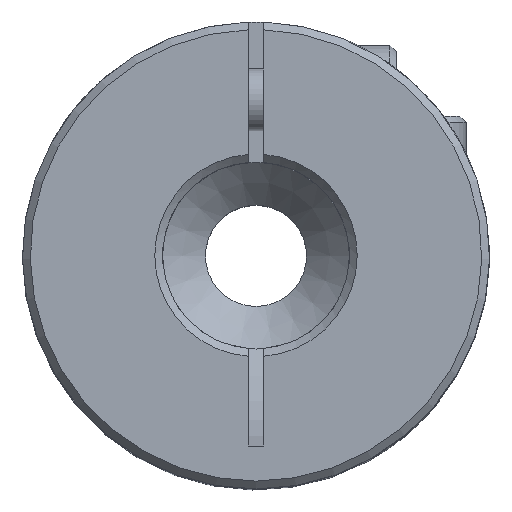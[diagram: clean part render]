
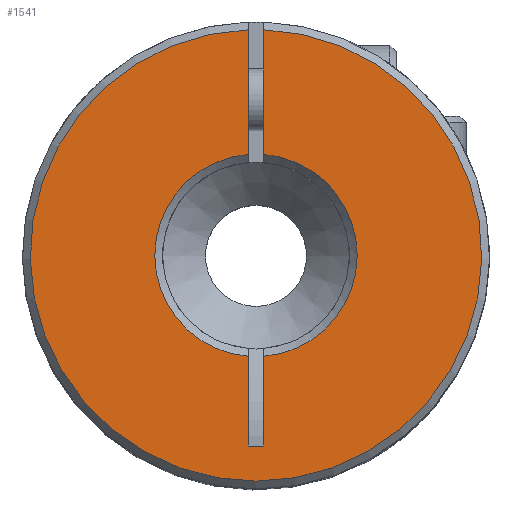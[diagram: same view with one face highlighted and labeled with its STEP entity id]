
A CAD part, top view. The second image highlights one B-rep face of the part: STEP entity #1541.
In plain terms, the highlighted planar face has unit normal (0, 0, 1) as drawn and (0, 0, -1) by its records, which use the part's own axes.
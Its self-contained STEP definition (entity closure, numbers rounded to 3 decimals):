
#1541=ADVANCED_FACE('',(#3098),#3100,.F.);
#3098=FACE_BOUND('',#3099,.T.);
#3099=EDGE_LOOP('',(#4160,#4161,#4162,#4163,#4164,#4165,#4166,#4167));
#3100=PLANE('',#3101);
#3101=AXIS2_PLACEMENT_3D('',#3102,#3103,#3104);
#3102=CARTESIAN_POINT('',(0.,0.,0.));
#3103=DIRECTION('',(0.,0.,1.));
#3104=DIRECTION('',(1.,0.,0.));
#4160=ORIENTED_EDGE('',*,*,#4709,.F.);
#4161=ORIENTED_EDGE('',*,*,#4705,.T.);
#4162=ORIENTED_EDGE('',*,*,#4710,.T.);
#4163=ORIENTED_EDGE('',*,*,#4711,.T.);
#4164=ORIENTED_EDGE('',*,*,#4712,.T.);
#4165=ORIENTED_EDGE('',*,*,#4713,.T.);
#4166=ORIENTED_EDGE('',*,*,#4714,.T.);
#4167=ORIENTED_EDGE('',*,*,#4715,.T.);
#4705=EDGE_CURVE('',#5303,#5309,#5311,.T.);
#4709=EDGE_CURVE('',#5303,#5317,#5318,.T.);
#4710=EDGE_CURVE('',#5309,#5319,#5320,.T.);
#4711=EDGE_CURVE('',#5319,#5321,#5322,.T.);
#4712=EDGE_CURVE('',#5321,#5323,#5324,.F.);
#4713=EDGE_CURVE('',#5323,#5325,#5326,.F.);
#4714=EDGE_CURVE('',#5325,#5327,#5328,.T.);
#4715=EDGE_CURVE('',#5327,#5317,#5329,.F.);
#5303=VERTEX_POINT('',#7527);
#5309=VERTEX_POINT('',#7541);
#5311=LINE('',#7547,#7548);
#5317=VERTEX_POINT('',#7563);
#5318=CIRCLE('',#7564,14.5);
#5319=VERTEX_POINT('',#7568);
#5320=CIRCLE('',#7569,6.5);
#5321=VERTEX_POINT('',#7573);
#5322=LINE('',#7574,#7575);
#5323=VERTEX_POINT('',#7577);
#5324=LINE('',#7578,#7579);
#5325=VERTEX_POINT('',#7581);
#5326=LINE('',#7582,#7583);
#5327=VERTEX_POINT('',#7585);
#5328=CIRCLE('',#7586,6.5);
#5329=LINE('',#7590,#7591);
#7527=CARTESIAN_POINT('',(14.491,0.5,0.));
#7541=CARTESIAN_POINT('',(6.481,0.5,0.));
#7547=CARTESIAN_POINT('',(14.491,0.5,0.));
#7548=VECTOR('',#7549,1.);
#7549=DIRECTION('',(-1.,0.,0.));
#7563=CARTESIAN_POINT('',(14.491,-0.5,0.));
#7564=AXIS2_PLACEMENT_3D('',#7565,#7566,#7567);
#7565=CARTESIAN_POINT('',(0.,0.,0.));
#7566=DIRECTION('',(0.,-0.,1.));
#7567=DIRECTION('',(0.999,0.034,0.));
#7568=CARTESIAN_POINT('',(-6.481,0.5,0.));
#7569=AXIS2_PLACEMENT_3D('',#7570,#7571,#7572);
#7570=CARTESIAN_POINT('',(0.,0.,0.));
#7571=DIRECTION('',(0.,-0.,1.));
#7572=DIRECTION('',(0.997,0.077,0.));
#7573=CARTESIAN_POINT('',(-12.245,0.5,0.));
#7574=CARTESIAN_POINT('',(-6.481,0.5,0.));
#7575=VECTOR('',#7576,1.);
#7576=DIRECTION('',(-1.,0.,0.));
#7577=CARTESIAN_POINT('',(-12.245,-0.5,0.));
#7578=CARTESIAN_POINT('',(-12.245,-0.5,0.));
#7579=VECTOR('',#7580,1.);
#7580=DIRECTION('',(0.,1.,0.));
#7581=CARTESIAN_POINT('',(-6.481,-0.5,0.));
#7582=CARTESIAN_POINT('',(-6.481,-0.5,0.));
#7583=VECTOR('',#7584,1.);
#7584=DIRECTION('',(-1.,0.,0.));
#7585=CARTESIAN_POINT('',(6.481,-0.5,0.));
#7586=AXIS2_PLACEMENT_3D('',#7587,#7588,#7589);
#7587=CARTESIAN_POINT('',(0.,0.,0.));
#7588=DIRECTION('',(-0.,0.,1.));
#7589=DIRECTION('',(-0.997,-0.077,0.));
#7590=CARTESIAN_POINT('',(14.491,-0.5,0.));
#7591=VECTOR('',#7592,1.);
#7592=DIRECTION('',(-1.,0.,0.));
